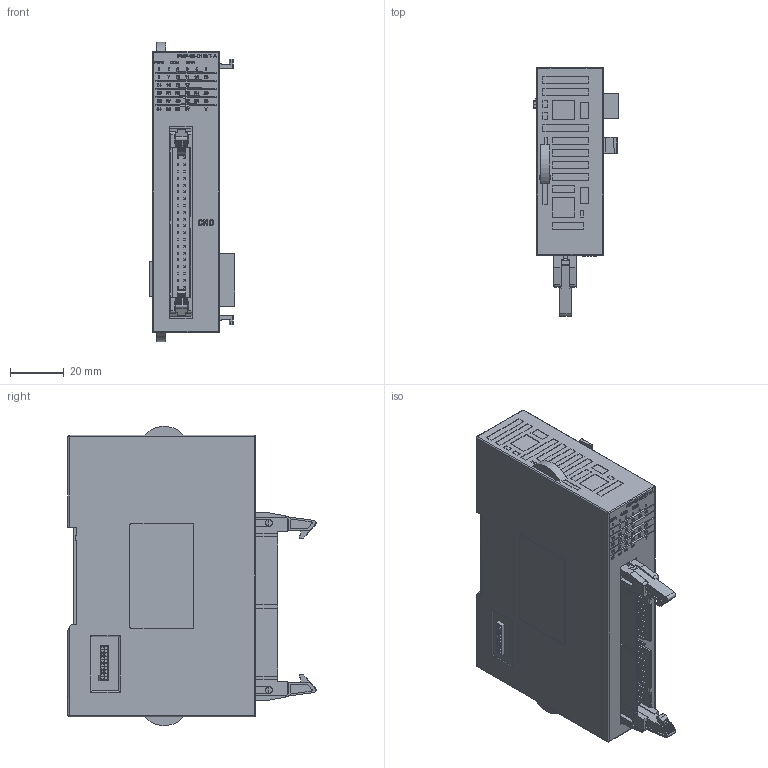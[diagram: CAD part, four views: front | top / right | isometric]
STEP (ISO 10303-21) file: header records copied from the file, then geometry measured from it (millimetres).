
FILE_DESCRIPTION(('STEP AP242'), '1');
FILE_NAME('PMP-01-E16YT-A', '2025-08-18T11:39:56', ('PROMPOWER'), (''), 'C3D Converter', 'C3D Toolkit', '');
FILE_SCHEMA(('AP242_MANAGED_MODEL_BASED_3D_ENGINEERING_MIM_LF { 1 0 10303 442 1 1 4 }'));
Length unit declared in the file: millimetre
Products named in the file (1): PMP-01-E16YT-A
Bounding box: 32.11 x 92.65 x 111.79 mm (x, y, z)
Surface area: 30906.2 mm2
Topology: 12 solids, 86 shells, 5044 faces, 36199 edges, 31301 vertices
Faces by surface type: plane 4773, cylinder 140, extrusion 83, bspline 48
Full cylindrical faces by diameter (mm): 2 x2, 2.5 x4
Entity records: 357497 total; most frequent: CARTESIAN_POINT 97864, ORIENTED_EDGE 50450, EDGE_CURVE 36192, VERTEX_POINT 31301, DIRECTION 24491, B_SPLINE_CURVE_WITH_KNOTS 22064, VECTOR 13863, LINE 13780
